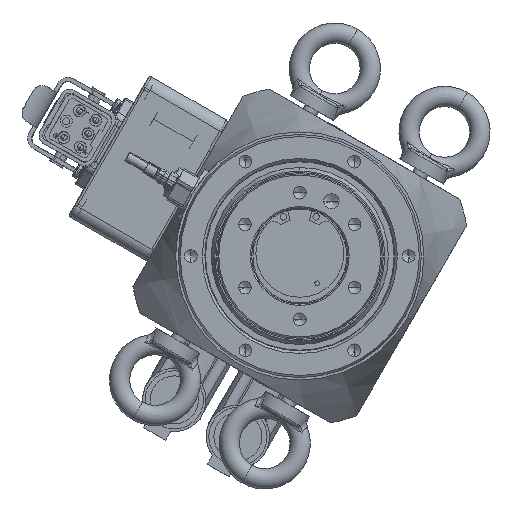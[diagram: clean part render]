
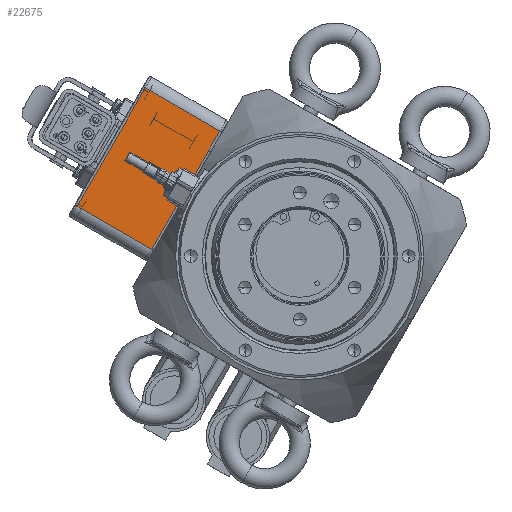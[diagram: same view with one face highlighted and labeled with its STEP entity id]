
A CAD part, front view. The second image highlights one B-rep face of the part: STEP entity #22675.
In plain terms, the highlighted planar face has unit normal (0, -1, 0).
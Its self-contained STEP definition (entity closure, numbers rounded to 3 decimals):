
#1544 = DIRECTION ( 'NONE',  ( 0., -1., 0. ) ) ;
#1703 = EDGE_CURVE ( 'NONE', #48707, #27519, #40320, .T. ) ;
#3422 = CARTESIAN_POINT ( 'NONE',  ( -90.905, 155.577, 4.708 ) ) ;
#5152 = CARTESIAN_POINT ( 'NONE',  ( -90.833, 155.577, 4.834 ) ) ;
#5487 = VECTOR ( 'NONE', #17226, 1000. ) ;
#5911 = EDGE_CURVE ( 'NONE', #46422, #38243, #53705, .T. ) ;
#13588 = VECTOR ( 'NONE', #82026, 1000. ) ;
#17226 = DIRECTION ( 'NONE',  ( -0.5, 0., -0.866 ) ) ;
#22675 = ADVANCED_FACE ( 'NONE', ( #49449 ), #38438, .T. ) ;
#24100 = AXIS2_PLACEMENT_3D ( 'NONE', #53169, #1544, #89936 ) ;
#25592 = EDGE_LOOP ( 'NONE', ( #40821, #32754, #79025, #91861 ) ) ;
#27519 = VERTEX_POINT ( 'NONE', #95365 ) ;
#32754 = ORIENTED_EDGE ( 'NONE', *, *, #85741, .T. ) ;
#38243 = VERTEX_POINT ( 'NONE', #5152 ) ;
#38438 = PLANE ( 'NONE',  #24100 ) ;
#40320 = LINE ( 'NONE', #84995, #61060 ) ;
#40702 = CARTESIAN_POINT ( 'NONE',  ( -74.225, 155.577, 57.599 ) ) ;
#40821 = ORIENTED_EDGE ( 'NONE', *, *, #1703, .T. ) ;
#46422 = VERTEX_POINT ( 'NONE', #89457 ) ;
#47327 = DIRECTION ( 'NONE',  ( -0.5, 0., -0.866 ) ) ;
#48707 = VERTEX_POINT ( 'NONE', #87011 ) ;
#49449 = FACE_OUTER_BOUND ( 'NONE', #25592, .T. ) ;
#49618 = DIRECTION ( 'NONE',  ( -0.866, 0., 0.5 ) ) ;
#51439 = CARTESIAN_POINT ( 'NONE',  ( -101.225, 155.577, 10.834 ) ) ;
#53169 = CARTESIAN_POINT ( 'NONE',  ( -87.725, 155.577, 34.217 ) ) ;
#53705 = LINE ( 'NONE', #3422, #5487 ) ;
#56113 = VECTOR ( 'NONE', #49618, 1000. ) ;
#61060 = VECTOR ( 'NONE', #47327, 1000. ) ;
#73295 = LINE ( 'NONE', #51439, #13588 ) ;
#79025 = ORIENTED_EDGE ( 'NONE', *, *, #5911, .F. ) ;
#79117 = LINE ( 'NONE', #40702, #56113 ) ;
#82026 = DIRECTION ( 'NONE',  ( 0.866, 0., -0.5 ) ) ;
#84995 = CARTESIAN_POINT ( 'NONE',  ( -106.778, 155.577, 45.217 ) ) ;
#85741 = EDGE_CURVE ( 'NONE', #27519, #38243, #73295, .T. ) ;
#87011 = CARTESIAN_POINT ( 'NONE',  ( -93.278, 155.577, 68.599 ) ) ;
#88710 = EDGE_CURVE ( 'NONE', #46422, #48707, #79117, .T. ) ;
#89457 = CARTESIAN_POINT ( 'NONE',  ( -63.833, 155.577, 51.599 ) ) ;
#89936 = DIRECTION ( 'NONE',  ( 0.5, 0., 0.866 ) ) ;
#91861 = ORIENTED_EDGE ( 'NONE', *, *, #88710, .T. ) ;
#95365 = CARTESIAN_POINT ( 'NONE',  ( -120.278, 155.577, 21.834 ) ) ;
